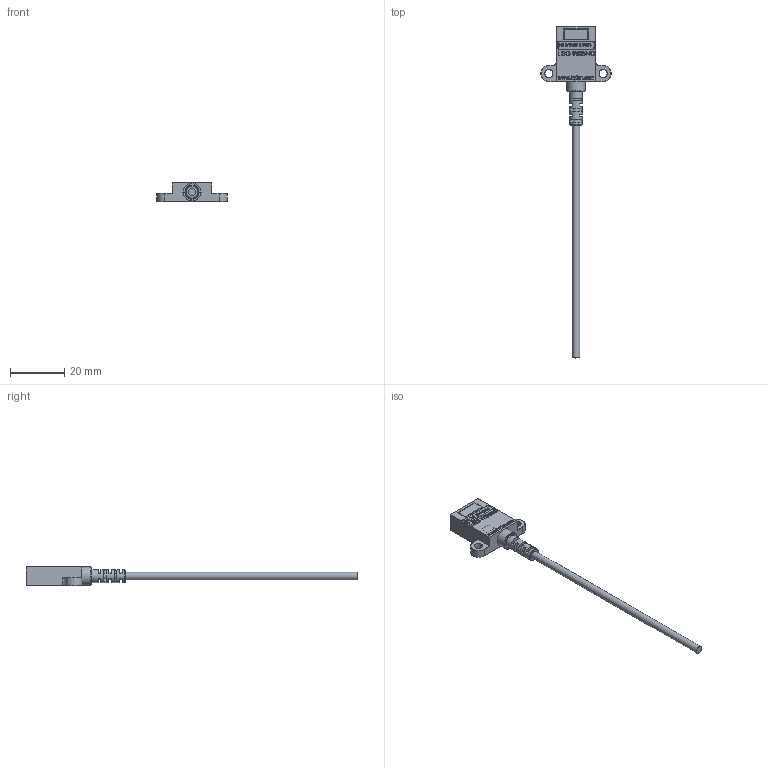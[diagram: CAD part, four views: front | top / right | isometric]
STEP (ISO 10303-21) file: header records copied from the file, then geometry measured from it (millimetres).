
FILE_DESCRIPTION(/* description */ (''),/* implementation_level */ '2;1');
FILE_NAME(/* name */ 'F:\HUAYIFENG\01)HUAYIFENG_宣传文件\HUAYIFENG_\X2\5BA34F2065874EF6\X0\_销售专用\HUAYIFENG_\X2\5BA34F2065874EF6\X0\_销售资料\02)产品销售资料_\X2\514975357CFB5217\X0\\02)光电系列_3D\03)\X2\62415E73578B51497535\X0\\LSD-W05.stp',/* time_stamp */ '2017-11-29T13:22:57+08:00',/* author */ ('fengjiarun'),/* organization */ (''),/* preprocessor_version */ 'ST-DEVELOPER v16.5',/* originating_system */ 'Autodesk Inventor 2017',/* authorisation */ '');
FILE_SCHEMA (('AUTOMOTIVE_DESIGN { 1 0 10303 214 3 1 1 }'));
Length unit declared in the file: millimetre
Products named in the file (1): 零件3
Bounding box: 26 x 122.55 x 7.05 mm (x, y, z)
Volume: 3050.7 mm3; surface area: 2447.7 mm2
Topology: 1 solids, 3 shells, 589 faces, 1575 edges, 1047 vertices
Faces by surface type: plane 388, bspline 156, cylinder 35, torus 10
Full cylindrical faces by diameter (mm): 2.8 x2, 3 x2, 4.7 x1, 4.8 x1, 6.7 x1
Entity records: 19981 total; most frequent: CARTESIAN_POINT 5644, ORIENTED_EDGE 3106, DIRECTION 2211, EDGE_CURVE 1553, LINE 1139, VECTOR 1139, VERTEX_POINT 1040, EDGE_LOOP 665
